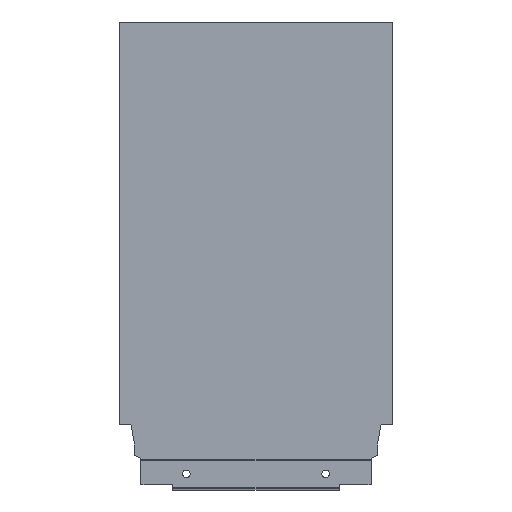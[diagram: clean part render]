
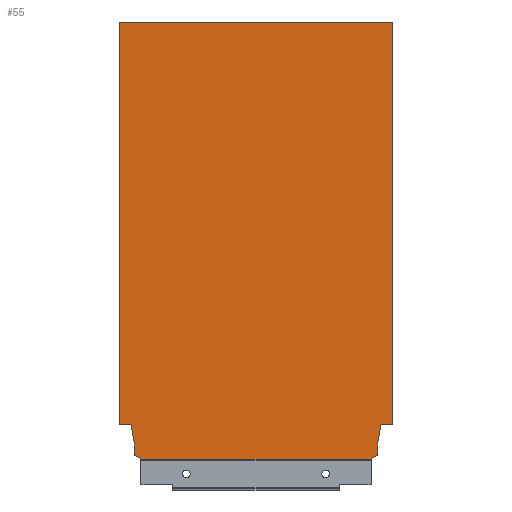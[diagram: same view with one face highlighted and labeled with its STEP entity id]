
A CAD part, top view. The second image highlights one B-rep face of the part: STEP entity #55.
In plain terms, the highlighted planar face has unit normal (0, 0, 1).
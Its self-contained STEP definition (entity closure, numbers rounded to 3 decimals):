
#55 = ADVANCED_FACE ( 'NONE', ( #634 ), #1157, .T. ) ;
#80 = AXIS2_PLACEMENT_3D ( 'NONE', #1153, #1143, #1142 ) ;
#118 = EDGE_CURVE ( 'NONE', #1214, #1119, #600, .T. ) ;
#122 = EDGE_CURVE ( 'NONE', #1108, #1146, #602, .T. ) ;
#124 = EDGE_CURVE ( 'NONE', #1199, #1196, #590, .T. ) ;
#125 = EDGE_CURVE ( 'NONE', #1214, #1112, #588, .T. ) ;
#126 = EDGE_CURVE ( 'NONE', #1152, #1112, #589, .T. ) ;
#127 = EDGE_CURVE ( 'NONE', #1196, #1108, #579, .T. ) ;
#128 = EDGE_CURVE ( 'NONE', #1026, #1152, #443, .T. ) ;
#129 = EDGE_CURVE ( 'NONE', #1119, #1199, #583, .T. ) ;
#130 = EDGE_CURVE ( 'NONE', #1228, #1101, #580, .T. ) ;
#131 = EDGE_CURVE ( 'NONE', #1059, #1146, #576, .T. ) ;
#133 = EDGE_CURVE ( 'NONE', #1135, #1026, #574, .T. ) ;
#135 = EDGE_CURVE ( 'NONE', #1047, #1135, #570, .T. ) ;
#137 = EDGE_CURVE ( 'NONE', #1101, #1047, #559, .T. ) ;
#139 = EDGE_CURVE ( 'NONE', #1059, #1228, #562, .T. ) ;
#334 = ORIENTED_EDGE ( 'NONE', *, *, #139, .F. ) ;
#335 = ORIENTED_EDGE ( 'NONE', *, *, #130, .F. ) ;
#336 = ORIENTED_EDGE ( 'NONE', *, *, #137, .F. ) ;
#337 = ORIENTED_EDGE ( 'NONE', *, *, #135, .F. ) ;
#338 = ORIENTED_EDGE ( 'NONE', *, *, #133, .F. ) ;
#339 = ORIENTED_EDGE ( 'NONE', *, *, #128, .F. ) ;
#340 = ORIENTED_EDGE ( 'NONE', *, *, #126, .F. ) ;
#341 = ORIENTED_EDGE ( 'NONE', *, *, #125, .T. ) ;
#342 = ORIENTED_EDGE ( 'NONE', *, *, #118, .F. ) ;
#343 = ORIENTED_EDGE ( 'NONE', *, *, #129, .F. ) ;
#344 = ORIENTED_EDGE ( 'NONE', *, *, #124, .F. ) ;
#345 = ORIENTED_EDGE ( 'NONE', *, *, #127, .F. ) ;
#356 = EDGE_LOOP ( 'NONE', ( #1328, #1292, #345, #344, #343, #342, #341, #340, #339, #338, #337, #336, #335, #334 ) ) ;
#443 = LINE ( 'NONE', #1048, #577 ) ;
#554 = VECTOR ( 'NONE', #1008, 1000. ) ;
#558 = VECTOR ( 'NONE', #1013, 1000. ) ;
#559 = LINE ( 'NONE', #1014, #558 ) ;
#562 = LINE ( 'NONE', #1012, #554 ) ;
#563 = VECTOR ( 'NONE', #1019, 1000. ) ;
#567 = VECTOR ( 'NONE', #1025, 1000. ) ;
#570 = LINE ( 'NONE', #1023, #563 ) ;
#571 = VECTOR ( 'NONE', #1031, 1000. ) ;
#573 = VECTOR ( 'NONE', #1034, 1000. ) ;
#574 = LINE ( 'NONE', #1033, #567 ) ;
#575 = VECTOR ( 'NONE', #1036, 1000. ) ;
#576 = LINE ( 'NONE', #1035, #571 ) ;
#577 = VECTOR ( 'NONE', #1039, 1000. ) ;
#578 = VECTOR ( 'NONE', #1041, 1000. ) ;
#579 = LINE ( 'NONE', #1043, #578 ) ;
#580 = LINE ( 'NONE', #1037, #573 ) ;
#582 = VECTOR ( 'NONE', #1046, 1000. ) ;
#583 = LINE ( 'NONE', #1040, #575 ) ;
#586 = VECTOR ( 'NONE', #1049, 1000. ) ;
#588 = LINE ( 'NONE', #1062, #586 ) ;
#589 = LINE ( 'NONE', #1050, #582 ) ;
#590 = LINE ( 'NONE', #1053, #594 ) ;
#591 = VECTOR ( 'NONE', #1060, 1000. ) ;
#594 = VECTOR ( 'NONE', #1051, 1000. ) ;
#598 = VECTOR ( 'NONE', #1074, 1000. ) ;
#600 = LINE ( 'NONE', #1087, #598 ) ;
#602 = LINE ( 'NONE', #1069, #591 ) ;
#634 = FACE_OUTER_BOUND ( 'NONE', #356, .T. ) ;
#693 = CARTESIAN_POINT ( 'NONE',  ( 0., 260.7, 8. ) ) ;
#698 = CARTESIAN_POINT ( 'NONE',  ( -149.996, 0., 8. ) ) ;
#703 = CARTESIAN_POINT ( 'NONE',  ( -154.1, 2.64, 8. ) ) ;
#704 = CARTESIAN_POINT ( 'NONE',  ( -154.1, 10.765, 8. ) ) ;
#721 = CARTESIAN_POINT ( 'NONE',  ( -13.004, 1.146, 8. ) ) ;
#724 = CARTESIAN_POINT ( 'NONE',  ( -163., 21.2, 8. ) ) ;
#728 = CARTESIAN_POINT ( 'NONE',  ( -8.9, 10.765, 8. ) ) ;
#734 = CARTESIAN_POINT ( 'NONE',  ( -149.996, 1.146, 8. ) ) ;
#735 = CARTESIAN_POINT ( 'NONE',  ( -13.004, 0., 8. ) ) ;
#736 = CARTESIAN_POINT ( 'NONE',  ( -155.94, 21.2, 8. ) ) ;
#740 = CARTESIAN_POINT ( 'NONE',  ( 0., 21.2, 8. ) ) ;
#760 = CARTESIAN_POINT ( 'NONE',  ( -163., 260.7, 8. ) ) ;
#765 = CARTESIAN_POINT ( 'NONE',  ( -7.06, 21.2, 8. ) ) ;
#772 = CARTESIAN_POINT ( 'NONE',  ( -8.9, 2.64, 8. ) ) ;
#1008 = DIRECTION ( 'NONE',  ( 1., 0., 0. ) ) ;
#1012 = CARTESIAN_POINT ( 'NONE',  ( -163., 260.7, 8. ) ) ;
#1013 = DIRECTION ( 'NONE',  ( -1., 0., 0. ) ) ;
#1014 = CARTESIAN_POINT ( 'NONE',  ( 0., 21.2, 8. ) ) ;
#1019 = DIRECTION ( 'NONE',  ( -0.174, -0.985, 0. ) ) ;
#1023 = CARTESIAN_POINT ( 'NONE',  ( -7.06, 21.2, 8. ) ) ;
#1025 = DIRECTION ( 'NONE',  ( 0., -1., 0. ) ) ;
#1026 = VERTEX_POINT ( 'NONE', #772 ) ;
#1031 = DIRECTION ( 'NONE',  ( 0., -1., 0. ) ) ;
#1033 = CARTESIAN_POINT ( 'NONE',  ( -8.9, 10.765, 8. ) ) ;
#1034 = DIRECTION ( 'NONE',  ( 0., -1., 0. ) ) ;
#1035 = CARTESIAN_POINT ( 'NONE',  ( -163., 0., 8. ) ) ;
#1036 = DIRECTION ( 'NONE',  ( -0.94, 0.342, 0. ) ) ;
#1037 = CARTESIAN_POINT ( 'NONE',  ( 0., 0., 8. ) ) ;
#1039 = DIRECTION ( 'NONE',  ( -0.94, -0.342, 0. ) ) ;
#1040 = CARTESIAN_POINT ( 'NONE',  ( -154.1, 2.64, 8. ) ) ;
#1041 = DIRECTION ( 'NONE',  ( -0.174, 0.985, 0. ) ) ;
#1043 = CARTESIAN_POINT ( 'NONE',  ( -155.94, 21.2, 8. ) ) ;
#1046 = DIRECTION ( 'NONE',  ( 0., -1., 0. ) ) ;
#1047 = VERTEX_POINT ( 'NONE', #765 ) ;
#1048 = CARTESIAN_POINT ( 'NONE',  ( -8.9, 2.64, 8. ) ) ;
#1049 = DIRECTION ( 'NONE',  ( 1., 0., 0. ) ) ;
#1050 = CARTESIAN_POINT ( 'NONE',  ( -13.004, 1.146, 8. ) ) ;
#1051 = DIRECTION ( 'NONE',  ( 0., 1., 0. ) ) ;
#1053 = CARTESIAN_POINT ( 'NONE',  ( -154.1, 10.765, 8. ) ) ;
#1059 = VERTEX_POINT ( 'NONE', #760 ) ;
#1060 = DIRECTION ( 'NONE',  ( -1., 0., 0. ) ) ;
#1062 = CARTESIAN_POINT ( 'NONE',  ( -163., 0., 8. ) ) ;
#1069 = CARTESIAN_POINT ( 'NONE',  ( -168., 21.2, 8. ) ) ;
#1074 = DIRECTION ( 'NONE',  ( 0., 1., 0. ) ) ;
#1087 = CARTESIAN_POINT ( 'NONE',  ( -149.996, 1.146, 8. ) ) ;
#1101 = VERTEX_POINT ( 'NONE', #740 ) ;
#1108 = VERTEX_POINT ( 'NONE', #736 ) ;
#1112 = VERTEX_POINT ( 'NONE', #735 ) ;
#1119 = VERTEX_POINT ( 'NONE', #734 ) ;
#1135 = VERTEX_POINT ( 'NONE', #728 ) ;
#1142 = DIRECTION ( 'NONE',  ( 1., 0., 0. ) ) ;
#1143 = DIRECTION ( 'NONE',  ( 0., 0., 1. ) ) ;
#1146 = VERTEX_POINT ( 'NONE', #724 ) ;
#1152 = VERTEX_POINT ( 'NONE', #721 ) ;
#1153 = CARTESIAN_POINT ( 'NONE',  ( -163., 0., 8. ) ) ;
#1157 = PLANE ( 'NONE',  #80 ) ;
#1196 = VERTEX_POINT ( 'NONE', #704 ) ;
#1199 = VERTEX_POINT ( 'NONE', #703 ) ;
#1214 = VERTEX_POINT ( 'NONE', #698 ) ;
#1228 = VERTEX_POINT ( 'NONE', #693 ) ;
#1292 = ORIENTED_EDGE ( 'NONE', *, *, #122, .F. ) ;
#1328 = ORIENTED_EDGE ( 'NONE', *, *, #131, .T. ) ;
